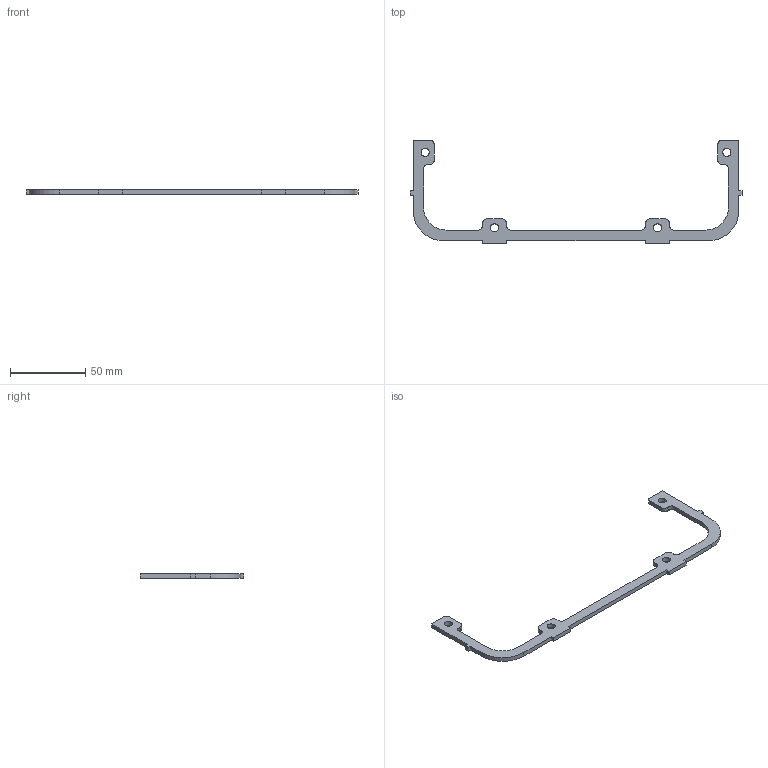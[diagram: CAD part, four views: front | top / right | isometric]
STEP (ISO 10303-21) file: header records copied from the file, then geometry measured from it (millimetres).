
FILE_DESCRIPTION (( 'STEP AP203' ), '1' );
FILE_NAME ('ORW-71.24.10.002 Ðàìêà.STEP', '2025-01-13T07:30:27', ( 'Àíäðåé' ), ( '' ), 'SwSTEP 2.0', 'SolidWorks 2023', '' );
FILE_SCHEMA (( 'CONFIG_CONTROL_DESIGN' ));
Length unit declared in the file: millimetre
Products named in the file (1): ORW-71.24.10.002 Рамка
Bounding box: 220 x 68.5 x 3 mm (x, y, z)
Volume: 8145.1 mm3; surface area: 7765.4 mm2
Topology: 1 solids, 1 shells, 60 faces, 174 edges, 116 vertices
Faces by surface type: plane 38, cylinder 22
Full cylindrical faces by diameter (mm): 5.4 x4
Entity records: 2055 total; most frequent: CARTESIAN_POINT 347, ORIENTED_EDGE 340, DIRECTION 336, EDGE_CURVE 170, VECTOR 126, LINE 126, VERTEX_POINT 116, AXIS2_PLACEMENT_3D 105
